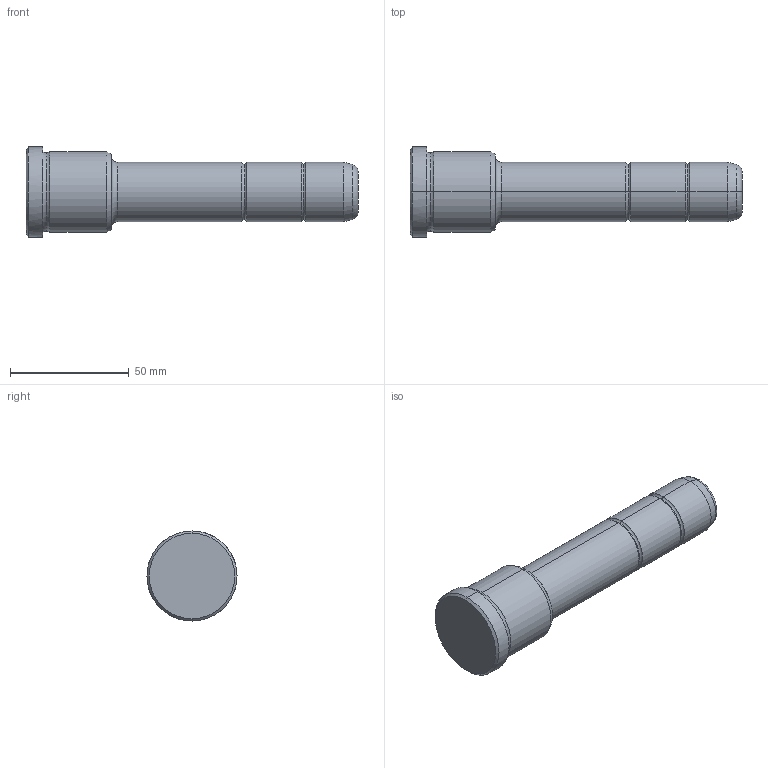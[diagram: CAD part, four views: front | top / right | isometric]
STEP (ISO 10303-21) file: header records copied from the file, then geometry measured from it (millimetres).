
FILE_DESCRIPTION(('CATIA V5 STEP Exchange'),'2;1');
FILE_NAME('C:\Users\Utente\Desktop\IO LAVORO\3D X SITO CF\X SITO\PLASTICA\351\351-25X36X140.stp','2021-08-28T09:18:22+00:00',('none'),('none'),'CATIA Version 5 Release 20 GA (IN-10)','CATIA V5 STEP AP203','none');
FILE_SCHEMA(('CONFIG_CONTROL_DESIGN'));
Length unit declared in the file: millimetre
Products named in the file (1): 351-25X36X140
Bounding box: 140 x 38 x 38 mm (x, y, z)
Volume: 84530.3 mm3; surface area: 14059.7 mm2
Topology: 1 solids, 1 shells, 36 faces, 102 edges, 70 vertices
Faces by surface type: torus 16, cylinder 10, cone 6, plane 4
Entity records: 1292 total; most frequent: CARTESIAN_POINT 321, ORIENTED_EDGE 204, DIRECTION 166, AXIS2_PLACEMENT_3D 115, EDGE_CURVE 102, CIRCLE 78, VERTEX_POINT 70, EDGE_LOOP 38
